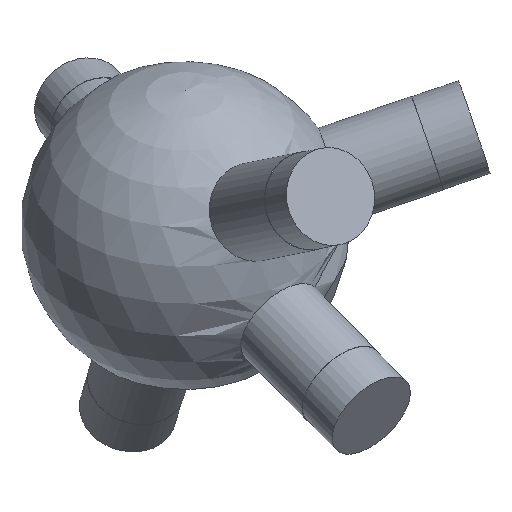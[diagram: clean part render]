
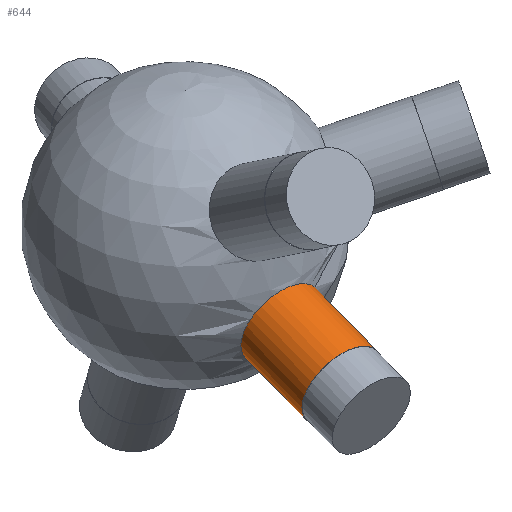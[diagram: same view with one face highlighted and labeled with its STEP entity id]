
A CAD part, isometric view. The second image highlights one B-rep face of the part: STEP entity #644.
In plain terms, the highlighted cylindrical face has radius 6 mm (diameter 12 mm), a full revolution.
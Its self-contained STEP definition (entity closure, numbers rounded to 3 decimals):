
#35 = SPHERICAL_SURFACE('',#36,20.);
#36 = AXIS2_PLACEMENT_3D('',#37,#38,#39);
#37 = CARTESIAN_POINT('',(0.,0.,0.));
#38 = DIRECTION('',(0.,0.,1.));
#39 = DIRECTION('',(1.,0.,-0.));
#272 = EDGE_CURVE('',#273,#273,#275,.T.);
#273 = VERTEX_POINT('',#274);
#274 = CARTESIAN_POINT('',(-2.245,-17.242,
    -9.884));
#275 = SURFACE_CURVE('',#276,(#281,#343),.PCURVE_S1.);
#276 = CIRCLE('',#277,6.);
#277 = AXIS2_PLACEMENT_3D('',#278,#279,#280);
#278 = CARTESIAN_POINT('',(-2.245,-18.515,
    -4.02));
#279 = DIRECTION('',(-0.118,-0.97,-0.211));
#280 = DIRECTION('',(0.,0.212,-0.977)
  );
#281 = PCURVE('',#35,#282);
#282 = DEFINITIONAL_REPRESENTATION('',(#283),#342);
#283 = B_SPLINE_CURVE_WITH_KNOTS('',8,(#284,#285,#286,#287,#288,#289,
    #290,#291,#292,#293,#294,#295,#296,#297,#298,#299,#300,#301,#302,
    #303,#304,#305,#306,#307,#308,#309,#310,#311,#312,#313,#314,#315,
    #316,#317,#318,#319,#320,#321,#322,#323,#324,#325,#326,#327,#328,
    #329,#330,#331,#332,#333,#334,#335,#336,#337,#338,#339,#340,#341),
  .UNSPECIFIED.,.F.,.F.,(9,7,7,7,7,7,7,7,9),(0.,0.785,
    1.473,2.675,3.577,4.254,
    5.268,5.776,6.283),.UNSPECIFIED.);
#284 = CARTESIAN_POINT('',(4.583,-0.517));
#285 = CARTESIAN_POINT('',(4.617,-0.518));
#286 = CARTESIAN_POINT('',(4.651,-0.515));
#287 = CARTESIAN_POINT('',(4.684,-0.508));
#288 = CARTESIAN_POINT('',(4.716,-0.498));
#289 = CARTESIAN_POINT('',(4.746,-0.484));
#290 = CARTESIAN_POINT('',(4.774,-0.468));
#291 = CARTESIAN_POINT('',(4.799,-0.448));
#292 = CARTESIAN_POINT('',(4.84,-0.407));
#293 = CARTESIAN_POINT('',(4.856,-0.387));
#294 = CARTESIAN_POINT('',(4.871,-0.364));
#295 = CARTESIAN_POINT('',(4.882,-0.341));
#296 = CARTESIAN_POINT('',(4.891,-0.316));
#297 = CARTESIAN_POINT('',(4.898,-0.291));
#298 = CARTESIAN_POINT('',(4.902,-0.265));
#299 = CARTESIAN_POINT('',(4.906,-0.194));
#300 = CARTESIAN_POINT('',(4.9,-0.149));
#301 = CARTESIAN_POINT('',(4.888,-0.105));
#302 = CARTESIAN_POINT('',(4.868,-0.063));
#303 = CARTESIAN_POINT('',(4.842,-0.024));
#304 = CARTESIAN_POINT('',(4.811,0.009));
#305 = CARTESIAN_POINT('',(4.774,0.037));
#306 = CARTESIAN_POINT('',(4.704,0.073));
#307 = CARTESIAN_POINT('',(4.672,0.085));
#308 = CARTESIAN_POINT('',(4.639,0.093));
#309 = CARTESIAN_POINT('',(4.604,0.096));
#310 = CARTESIAN_POINT('',(4.57,0.096));
#311 = CARTESIAN_POINT('',(4.536,0.09));
#312 = CARTESIAN_POINT('',(4.503,0.081));
#313 = CARTESIAN_POINT('',(4.448,0.058));
#314 = CARTESIAN_POINT('',(4.426,0.046));
#315 = CARTESIAN_POINT('',(4.404,0.032));
#316 = CARTESIAN_POINT('',(4.385,0.016));
#317 = CARTESIAN_POINT('',(4.366,-0.002));
#318 = CARTESIAN_POINT('',(4.35,-0.022));
#319 = CARTESIAN_POINT('',(4.335,-0.043));
#320 = CARTESIAN_POINT('',(4.303,-0.098));
#321 = CARTESIAN_POINT('',(4.289,-0.133));
#322 = CARTESIAN_POINT('',(4.279,-0.171));
#323 = CARTESIAN_POINT('',(4.275,-0.209));
#324 = CARTESIAN_POINT('',(4.276,-0.248));
#325 = CARTESIAN_POINT('',(4.282,-0.286));
#326 = CARTESIAN_POINT('',(4.294,-0.323));
#327 = CARTESIAN_POINT('',(4.321,-0.374));
#328 = CARTESIAN_POINT('',(4.331,-0.391));
#329 = CARTESIAN_POINT('',(4.343,-0.406));
#330 = CARTESIAN_POINT('',(4.356,-0.421));
#331 = CARTESIAN_POINT('',(4.37,-0.435));
#332 = CARTESIAN_POINT('',(4.385,-0.448));
#333 = CARTESIAN_POINT('',(4.402,-0.46));
#334 = CARTESIAN_POINT('',(4.438,-0.481));
#335 = CARTESIAN_POINT('',(4.456,-0.491));
#336 = CARTESIAN_POINT('',(4.476,-0.499));
#337 = CARTESIAN_POINT('',(4.497,-0.505));
#338 = CARTESIAN_POINT('',(4.518,-0.511));
#339 = CARTESIAN_POINT('',(4.539,-0.514));
#340 = CARTESIAN_POINT('',(4.561,-0.516));
#341 = CARTESIAN_POINT('',(4.583,-0.517));
#342 = ( GEOMETRIC_REPRESENTATION_CONTEXT(2) 
PARAMETRIC_REPRESENTATION_CONTEXT() REPRESENTATION_CONTEXT('2D SPACE',''
  ) );
#343 = PCURVE('',#344,#349);
#344 = CYLINDRICAL_SURFACE('',#345,6.);
#345 = AXIS2_PLACEMENT_3D('',#346,#347,#348);
#346 = CARTESIAN_POINT('',(0.,0.,0.));
#347 = DIRECTION('',(-0.118,-0.97,-0.211));
#348 = DIRECTION('',(0.,0.212,-0.977)
  );
#349 = DEFINITIONAL_REPRESENTATION('',(#350),#354);
#350 = LINE('',#351,#352);
#351 = CARTESIAN_POINT('',(0.,19.079));
#352 = VECTOR('',#353,1.);
#353 = DIRECTION('',(1.,0.));
#354 = ( GEOMETRIC_REPRESENTATION_CONTEXT(2) 
PARAMETRIC_REPRESENTATION_CONTEXT() REPRESENTATION_CONTEXT('2D SPACE',''
  ) );
#644 = ADVANCED_FACE('',(#645),#344,.T.);
#645 = FACE_BOUND('',#646,.T.);
#646 = EDGE_LOOP('',(#647,#670,#697,#698));
#647 = ORIENTED_EDGE('',*,*,#648,.T.);
#648 = EDGE_CURVE('',#273,#649,#651,.T.);
#649 = VERTEX_POINT('',#650);
#650 = CARTESIAN_POINT('',(-3.691,-29.174,
    -12.475));
#651 = SEAM_CURVE('',#652,(#656,#663),.PCURVE_S1.);
#652 = LINE('',#653,#654);
#653 = CARTESIAN_POINT('',(0.,1.273,
    -5.863));
#654 = VECTOR('',#655,1.);
#655 = DIRECTION('',(-0.118,-0.97,-0.211));
#656 = PCURVE('',#344,#657);
#657 = DEFINITIONAL_REPRESENTATION('',(#658),#662);
#658 = LINE('',#659,#660);
#659 = CARTESIAN_POINT('',(6.283,-0.));
#660 = VECTOR('',#661,1.);
#661 = DIRECTION('',(0.,1.));
#662 = ( GEOMETRIC_REPRESENTATION_CONTEXT(2) 
PARAMETRIC_REPRESENTATION_CONTEXT() REPRESENTATION_CONTEXT('2D SPACE',''
  ) );
#663 = PCURVE('',#344,#664);
#664 = DEFINITIONAL_REPRESENTATION('',(#665),#669);
#665 = LINE('',#666,#667);
#666 = CARTESIAN_POINT('',(0.,-0.));
#667 = VECTOR('',#668,1.);
#668 = DIRECTION('',(0.,1.));
#669 = ( GEOMETRIC_REPRESENTATION_CONTEXT(2) 
PARAMETRIC_REPRESENTATION_CONTEXT() REPRESENTATION_CONTEXT('2D SPACE',''
  ) );
#670 = ORIENTED_EDGE('',*,*,#671,.F.);
#671 = EDGE_CURVE('',#649,#649,#672,.T.);
#672 = SURFACE_CURVE('',#673,(#678,#685),.PCURVE_S1.);
#673 = CIRCLE('',#674,6.);
#674 = AXIS2_PLACEMENT_3D('',#675,#676,#677);
#675 = CARTESIAN_POINT('',(-3.691,-30.448,
    -6.612));
#676 = DIRECTION('',(-0.118,-0.97,-0.211));
#677 = DIRECTION('',(0.,0.212,-0.977)
  );
#678 = PCURVE('',#344,#679);
#679 = DEFINITIONAL_REPRESENTATION('',(#680),#684);
#680 = LINE('',#681,#682);
#681 = CARTESIAN_POINT('',(0.,31.375));
#682 = VECTOR('',#683,1.);
#683 = DIRECTION('',(1.,0.));
#684 = ( GEOMETRIC_REPRESENTATION_CONTEXT(2) 
PARAMETRIC_REPRESENTATION_CONTEXT() REPRESENTATION_CONTEXT('2D SPACE',''
  ) );
#685 = PCURVE('',#686,#691);
#686 = PLANE('',#687);
#687 = AXIS2_PLACEMENT_3D('',#688,#689,#690);
#688 = CARTESIAN_POINT('',(-3.691,-30.448,
    -6.612));
#689 = DIRECTION('',(-0.118,-0.97,-0.211));
#690 = DIRECTION('',(0.,0.212,-0.977)
  );
#691 = DEFINITIONAL_REPRESENTATION('',(#692),#696);
#692 = CIRCLE('',#693,6.);
#693 = AXIS2_PLACEMENT_2D('',#694,#695);
#694 = CARTESIAN_POINT('',(0.,0.));
#695 = DIRECTION('',(1.,0.));
#696 = ( GEOMETRIC_REPRESENTATION_CONTEXT(2) 
PARAMETRIC_REPRESENTATION_CONTEXT() REPRESENTATION_CONTEXT('2D SPACE',''
  ) );
#697 = ORIENTED_EDGE('',*,*,#648,.F.);
#698 = ORIENTED_EDGE('',*,*,#272,.T.);
